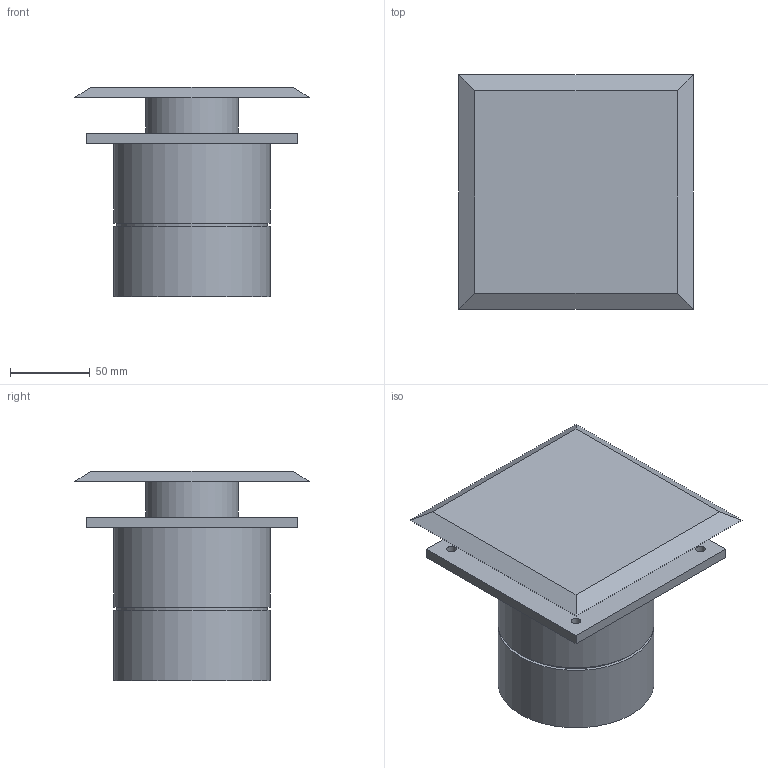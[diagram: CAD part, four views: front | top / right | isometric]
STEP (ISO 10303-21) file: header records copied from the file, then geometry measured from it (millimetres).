
FILE_DESCRIPTION(/* description */ (''),/* implementation_level */ '2;1');
FILE_NAME(/* name */ 'Z:\Output\M1-100_P-06174-002.stp',/* time_stamp */ '2017-07-19T16:23:19+02:00',/* author */ ('engineering1'),/* organization */ (''),/* preprocessor_version */ 'ST-DEVELOPER v16.5',/* originating_system */ 'Autodesk Inventor 2017',/* authorisation */ '');
FILE_SCHEMA (('AUTOMOTIVE_DESIGN { 1 0 10303 214 3 1 1 }'));
Length unit declared in the file: millimetre
Products named in the file (1): M1
Bounding box: 147 x 147 x 131 mm (x, y, z)
Volume: 1013233.2 mm3; surface area: 112391.6 mm2
Topology: 1 solids, 1 shells, 23 faces, 50 edges, 34 vertices
Faces by surface type: plane 15, cylinder 8
Full cylindrical faces by diameter (mm): 5.88 x4, 58 x1, 94 x1, 98 x2
Entity records: 624 total; most frequent: DIRECTION 104, CARTESIAN_POINT 96, ORIENTED_EDGE 80, EDGE_LOOP 44, EDGE_CURVE 40, AXIS2_PLACEMENT_3D 40, VERTEX_POINT 32, LINE 24
